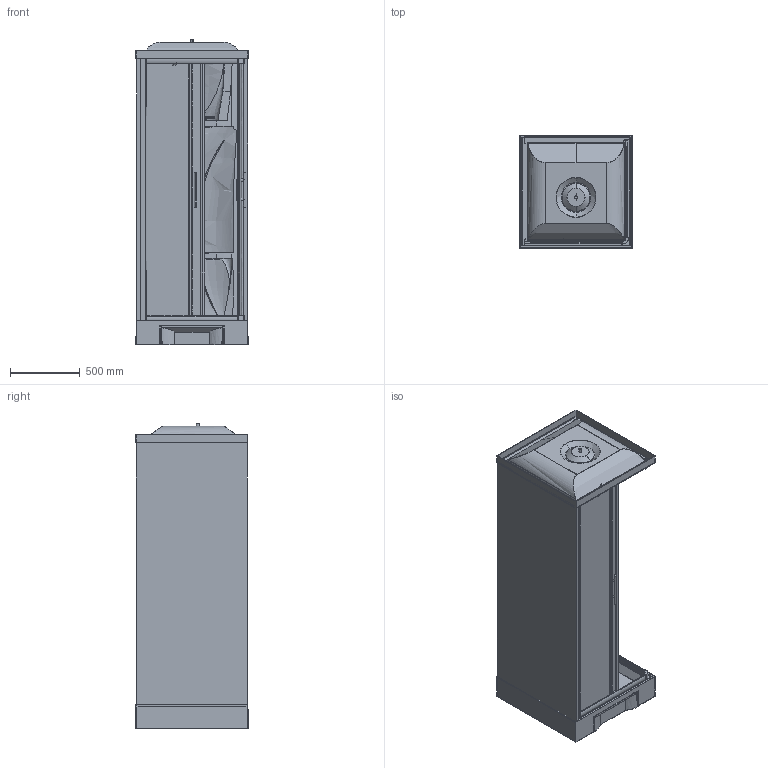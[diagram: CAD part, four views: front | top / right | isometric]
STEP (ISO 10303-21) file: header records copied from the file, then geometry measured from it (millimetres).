
FILE_DESCRIPTION(('STEP AP203'),'2;1');
FILE_NAME('NNH A 80 T 19 F.stp','2015-09-04T14:44:15',(''),(''),'2014.1.117','THINKDESIGN','');
FILE_SCHEMA(('CONFIG_CONTROL_DESIGN'));
Bounding box: 804.03 x 807.53 x 2192.4 mm (x, y, z)
Volume: 179799779.2 mm3; surface area: 18435660.8 mm2
Topology: 45 solids, 45 shells, 851 faces, 2017 edges, 1256 vertices
Faces by surface type: bspline 422, plane 336, cylinder 93
Entity records: 70735 total; most frequent: CARTESIAN_POINT 53895, ORIENTED_EDGE 4014, DIRECTION 2425, EDGE_CURVE 2007, VERTEX_POINT 1256, VECTOR 979, LINE 979, EDGE_LOOP 885
